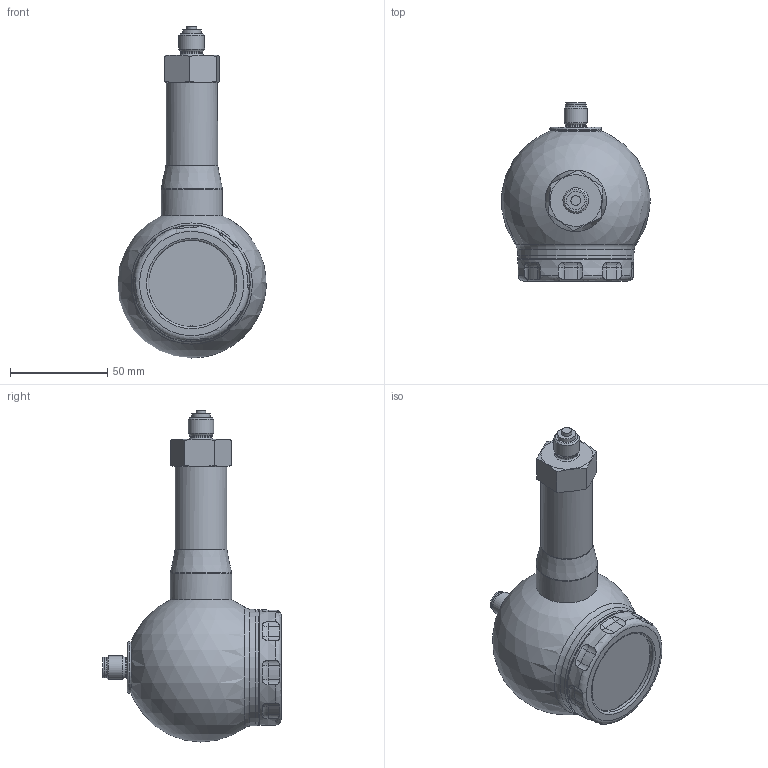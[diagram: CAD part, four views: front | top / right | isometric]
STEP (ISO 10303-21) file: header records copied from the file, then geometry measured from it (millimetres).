
FILE_DESCRIPTION(/* description */ (''),/* implementation_level */ '2;1');
FILE_NAME(/* name */ 'C:\Users\cz1231\Documents\modely ve step\DS400_M20x1,5_EN837.stp',/* time_stamp */ '2017-03-28T11:25:38+02:00',/* author */ ('CZ1231'),/* organization */ (''),/* preprocessor_version */ 'ST-DEVELOPER v15.2',/* originating_system */ 'Autodesk Inventor 2014',/* authorisation */ '');
FILE_SCHEMA (('AUTOMOTIVE_DESIGN { 1 0 10303 214 3 1 1 }'));
Length unit declared in the file: millimetre
Products named in the file (1): DS400_Obal_1
Bounding box: 76.07 x 91.43 x 170.34 mm (x, y, z)
Volume: 88326.4 mm3; surface area: 63374.2 mm2
Topology: 2 solids, 5 shells, 167 faces, 357 edges, 221 vertices
Faces by surface type: cylinder 63, plane 42, torus 22, cone 21, sphere 19
Full cylindrical faces by diameter (mm): 1 x4, 1.52 x1, 4.45 x1, 5 x2, 9.5 x1, 10.4 x1, 10.5 x1, 10.6 x1, 11.2 x1, 12 x1, 13.157 x1, 14.6 x1, 22.5 x1, 24.6 x1, 25 x3, 26.5 x2, 29.8 x1, 31.5 x1, 33 x1, 44.4 x1, 45 x1, 45.8 x1, 50.2 x2, 51.6 x1, 52.4 x1, 52.75 x2, 55.7 x1, 56.8 x1, 59.5 x2
Entity records: 4475 total; most frequent: CARTESIAN_POINT 1029, DIRECTION 721, ORIENTED_EDGE 526, AXIS2_PLACEMENT_3D 336, EDGE_LOOP 269, EDGE_CURVE 261, VERTEX_POINT 200, CIRCLE 168
